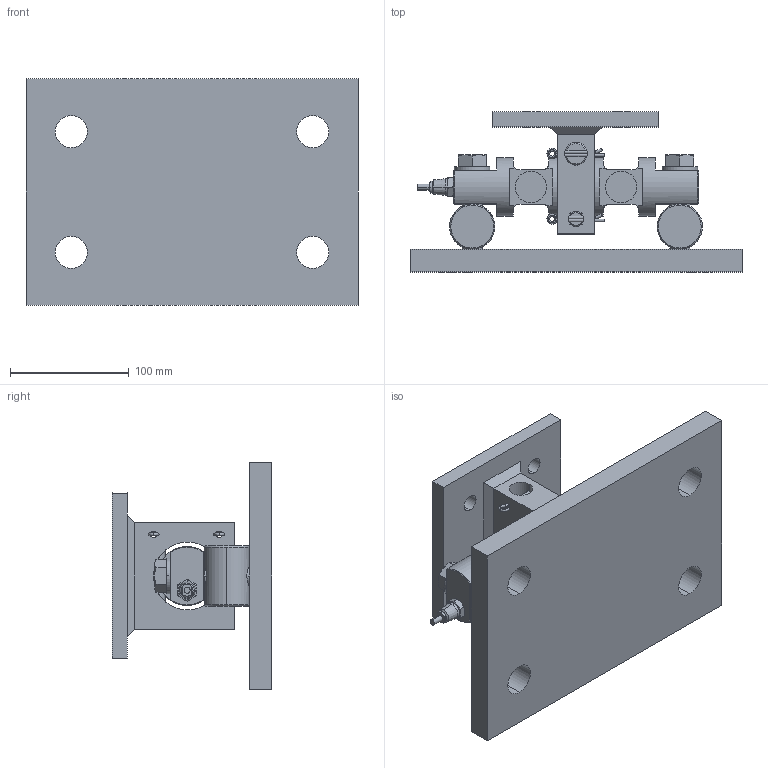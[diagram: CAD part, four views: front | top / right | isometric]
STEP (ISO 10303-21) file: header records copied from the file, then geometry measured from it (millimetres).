
FILE_DESCRIPTION (( 'STEP AP203' ), '1' );
FILE_NAME ('102DSM3-(5-20)Klb.STEP', '2025-07-18T05:51:14', ( '' ), ( '' ), 'SwSTEP 2.0', 'SolidWorks 2024', '' );
FILE_SCHEMA (( 'CONFIG_CONTROL_DESIGN' ));
Length unit declared in the file: millimetre
Products named in the file (1): 102DSM3-(5-20)Klb
Bounding box: 279.4 x 134.6 x 190.5 mm (x, y, z)
Volume: 1811634.3 mm3; surface area: 265599.6 mm2
Topology: 9 solids, 11 shells, 289 faces, 684 edges, 431 vertices
Faces by surface type: plane 120, cylinder 103, cone 54, bspline 8, torus 4
Entity records: 11490 total; most frequent: CARTESIAN_POINT 4755, DIRECTION 1385, ORIENTED_EDGE 1368, EDGE_CURVE 684, AXIS2_PLACEMENT_3D 551, VERTEX_POINT 431, EDGE_LOOP 341, FACE_OUTER_BOUND 289
